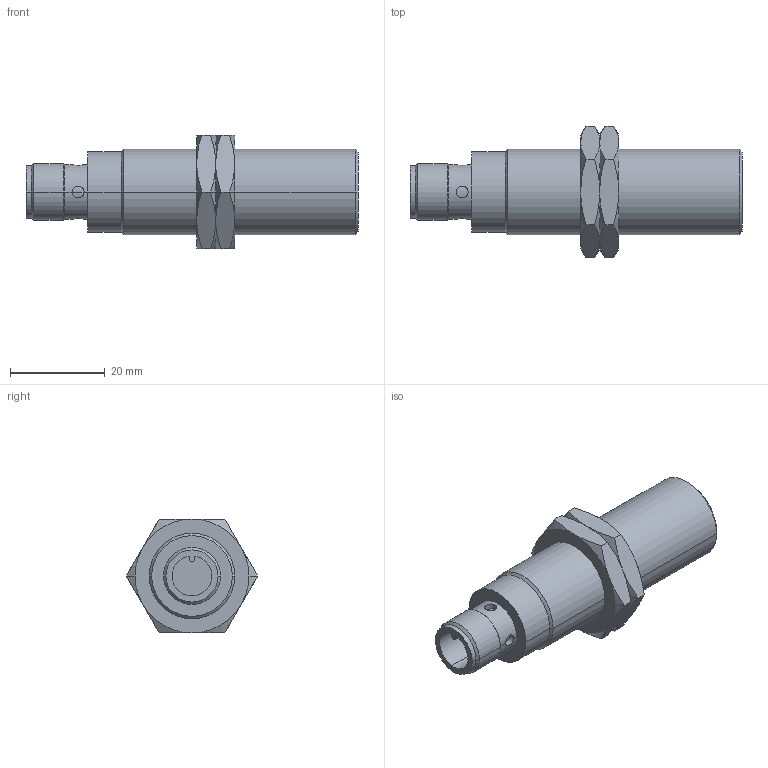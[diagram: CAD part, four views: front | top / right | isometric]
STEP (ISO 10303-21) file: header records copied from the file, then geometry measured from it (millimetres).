
FILE_DESCRIPTION( ( '' ), '1' );
FILE_NAME( '//partserver001.servicenet/client_exchange/iodir/jobs/output/wkb10598211_no0/STEP/ig5595_2_03.stp', '2008-05-15T09:22:42', ( '' ), ( '' ), ' ', ' ', ' ' );
FILE_SCHEMA( ( 'CONFIG_CONTROL_DESIGN' ) );
Length unit declared in the file: millimetre
Products named in the file (3): 1; 2; 3
Bounding box: 70 x 27.71 x 24 mm (x, y, z)
Volume: 17285.1 mm3; surface area: 6470.5 mm2
Topology: 3 solids, 3 shells, 101 faces, 215 edges, 124 vertices
Faces by surface type: cone 48, cylinder 31, plane 22
Entity records: 2993 total; most frequent: CARTESIAN_POINT 819, DIRECTION 431, ORIENTED_EDGE 430, EDGE_CURVE 215, AXIS2_PLACEMENT_3D 180, VERTEX_POINT 124, EDGE_LOOP 109, ADVANCED_FACE 101
